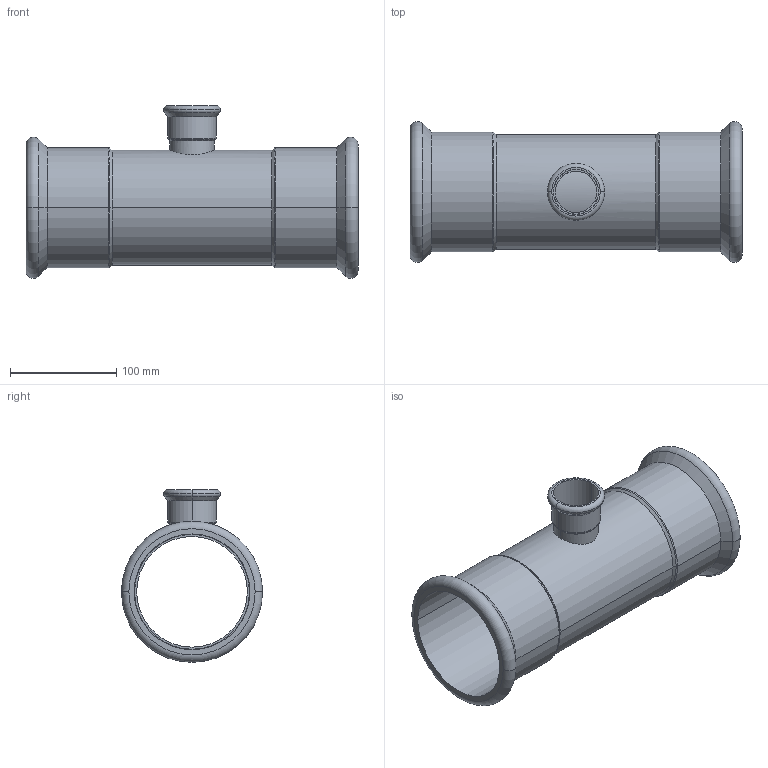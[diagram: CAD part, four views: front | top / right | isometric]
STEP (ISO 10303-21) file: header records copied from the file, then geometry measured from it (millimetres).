
FILE_DESCRIPTION(('CoCreate Modeling STEP Export'),'2;1');
FILE_NAME('C1415 108x42x108.stp','2014-11-12T10:58:12',(''),(''),'CoCreate Modeling STEP processor for AP214 (Solid Model)','CoCreate Modeling 17.00A 17-Jun-2010 (C) Parametric Technology GmbH','');
FILE_SCHEMA(('AUTOMOTIVE_DESIGN { 1 0 10303 214 1 1 1 1 }'));
Length unit declared in the file: millimetre
Products named in the file (2): C1415_108x42x108
Assembly tree (1 placements, depth 2):
  C1415_108x42x108
    C1415_108x42x108
Bounding box: 312 x 132.58 x 162.29 mm (x, y, z)
Volume: 333680.8 mm3; surface area: 239543.2 mm2
Topology: 1 solids, 1 shells, 62 faces, 127 edges, 75 vertices
Faces by surface type: cylinder 27, torus 14, cone 12, plane 9
Entity records: 2551 total; most frequent: CARTESIAN_POINT 1384, ORIENTED_EDGE 254, DIRECTION 208, EDGE_CURVE 127, AXIS2_PLACEMENT_3D 85, VERTEX_POINT 75, EDGE_LOOP 72, FACE_OUTER_BOUND 62
